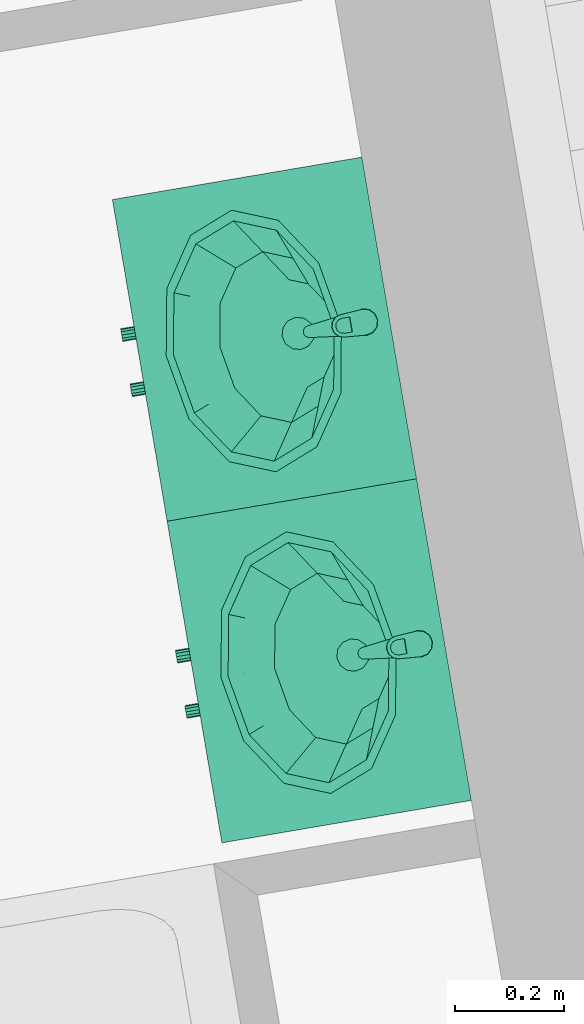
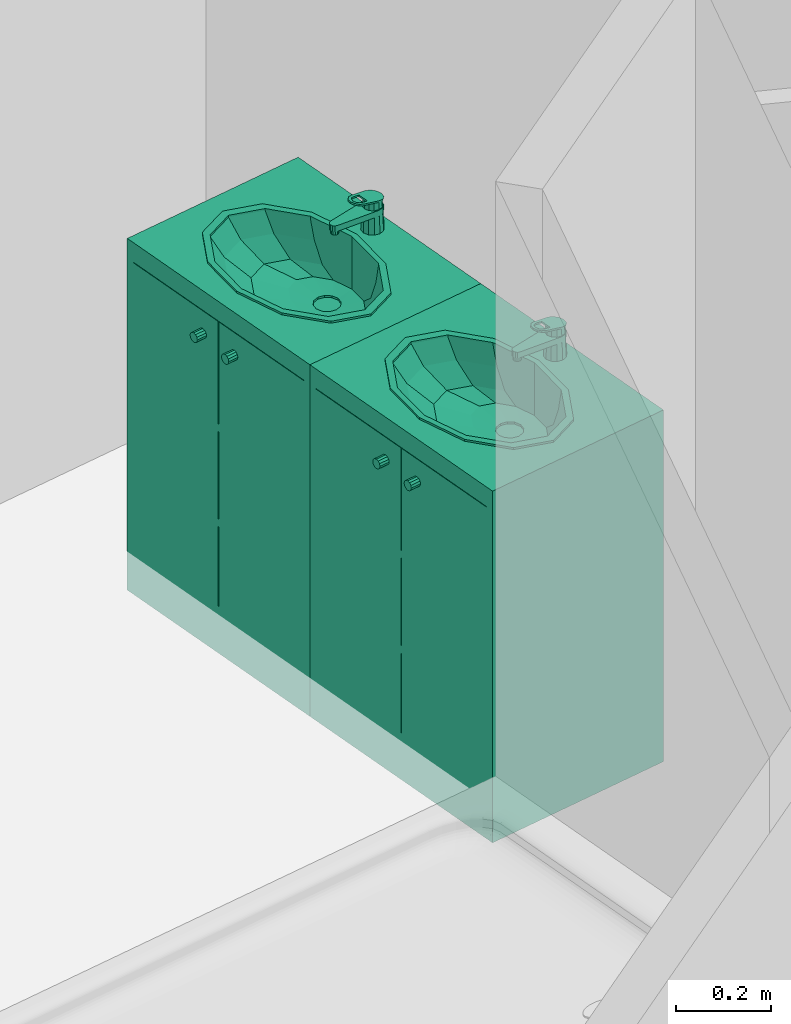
# One storey, part 143 of 195: 2 distribution elements.
"""IFC2X3 building model written with IfcOpenShell, lengths in metres."""

from ifc_helpers import new_model, entity, si_unit, converted_unit, derived_unit, money_unit, direction, frame, origin_with_axes, place, context, subcontext, project, spatial, open_shell, faceted_brep, surface_model, source, transform, mapped, type_object, element, save


model = new_model("IFC2X3")

# Units and contexts
model_context = context("Model", 3, precision=1e-05, world=origin_with_axes(), true_north=direction((0.0, 1.0)))
body_context = subcontext(model_context, "Body", "Model", "MODEL_VIEW")
ifc_project = project(units=[si_unit("LENGTHUNIT", "METRE"), si_unit("AREAUNIT", "SQUARE_METRE"), si_unit("VOLUMEUNIT", "CUBIC_METRE"), converted_unit("PLANEANGLEUNIT", "DEGREE", entity("IfcPlaneAngleMeasure", 0.0174532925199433), si_unit("PLANEANGLEUNIT", "RADIAN"), dimensions=[0, 0, 0, 0, 0, 0, 0]), money_unit("CHF"), converted_unit("TIMEUNIT", "Year", entity("IfcTimeMeasure", 31557600.0), si_unit("TIMEUNIT", "SECOND"), dimensions=[0, 0, 1, 0, 0, 0, 0]), si_unit("MASSUNIT", "GRAM", prefix="KILO"), si_unit("THERMODYNAMICTEMPERATUREUNIT", "DEGREE_CELSIUS"), si_unit("LUMINOUSINTENSITYUNIT", "LUMEN"), si_unit("ENERGYUNIT", "JOULE", prefix="MEGA"), derived_unit("THERMALCONDUCTANCEUNIT", [(si_unit("POWERUNIT", "WATT"), 1), (si_unit("LENGTHUNIT", "METRE"), -1), (si_unit("THERMODYNAMICTEMPERATUREUNIT", "KELVIN"), -1)]), derived_unit("SPECIFICHEATCAPACITYUNIT", [(si_unit("ENERGYUNIT", "JOULE"), 1), (si_unit("MASSUNIT", "GRAM", prefix="KILO"), -1), (si_unit("THERMODYNAMICTEMPERATUREUNIT", "KELVIN"), -1)]), derived_unit("MASSDENSITYUNIT", [(si_unit("MASSUNIT", "GRAM", prefix="KILO"), 1), (si_unit("VOLUMEUNIT", "CUBIC_METRE"), -1)])], contexts=[model_context])

# Site, building, storey
site_placement = place(None, origin_with_axes())
site = spatial("IfcSite", under=ifc_project, at=site_placement, Name="Site", CompositionType="ELEMENT")
building_placement = place(site_placement, origin_with_axes())
building = spatial("IfcBuilding", under=site, at=building_placement, Name="Bâtiment", CompositionType="ELEMENT")
storey_placement = place(building_placement, origin_with_axes())
storey = spatial("IfcBuildingStorey", under=building, at=storey_placement, Name="rdc", CompositionType="ELEMENT", Elevation=0.0)

# Distribution elements
distribution_element_type = type_object("IfcDistributionElementType", Name="Lavabo sur meuble 27")
shared_shape = source(origin_with_axes(), body_context, "Body", "SurfaceModel", [
    faceted_brep([(0.0, 0.0, 0.0), (0.6, 0.0, 0.0), (0.6, 0.0, 0.1), (0.0, 0.0, 0.1), (0.0, 0.4653441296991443, 0.0), (0.6, 0.4653441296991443, 0.0), (0.6, 0.4653441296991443, 0.1), (0.0, 0.4653441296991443, 0.1)], [[[0, 1, 2, 3]], [[0, 4, 5, 1]], [[1, 5, 6, 2]], [[3, 2, 6, 7]], [[4, 0, 3, 7]], [[5, 4, 7, 6]]]),
    faceted_brep([(0.0, 0.0, 0.1), (0.02, 0.0, 0.1), (0.02, 0.0, 0.12), (0.0, 0.0, 0.12), (0.0, 0.4653441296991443, 0.1), (0.02, 0.4653441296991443, 0.1), (0.58, 0.4653441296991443, 0.1), (0.6, 0.4653441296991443, 0.1), (0.6, 0.0, 0.1), (0.58, 0.0, 0.1), (0.58, 0.0, 0.12), (0.6, 0.0, 0.12), (0.6, 0.4653441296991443, 0.12), (0.58, 0.4653441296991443, 0.12), (0.02, 0.4653441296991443, 0.12), (0.0, 0.4653441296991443, 0.12)], [[[0, 1, 2, 3]], [[0, 4, 5, 6, 7, 8, 9, 1]], [[1, 9, 10, 2]], [[3, 2, 10, 11, 12, 13, 14, 15]], [[4, 0, 3, 15]], [[5, 4, 15, 14]], [[6, 5, 14, 13]], [[7, 6, 13, 12]], [[8, 7, 12, 11]], [[9, 8, 11, 10]]]),
    faceted_brep([(0.0, 0.0, 0.12), (0.02, 0.0, 0.12), (0.02, 0.0, 0.85), (0.0, 0.0, 0.85), (0.0, 0.4653441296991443, 0.12), (0.6, 0.4653441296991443, 0.12), (0.6, 0.0, 0.12), (0.58, 0.0, 0.12), (0.58, 0.4453441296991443, 0.12), (0.02, 0.4453441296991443, 0.12), (0.02, 0.4453441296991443, 0.85), (0.58, 0.4453441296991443, 0.85), (0.58, 0.0, 0.85), (0.6, 0.0, 0.85), (0.6, 0.4653441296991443, 0.85), (0.0, 0.4653441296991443, 0.85)], [[[0, 1, 2, 3]], [[0, 4, 5, 6, 7, 8, 9, 1]], [[1, 9, 10, 2]], [[3, 2, 10, 11, 12, 13, 14, 15]], [[4, 0, 3, 15]], [[5, 4, 15, 14]], [[6, 5, 14, 13]], [[7, 6, 13, 12]], [[8, 7, 12, 11]], [[9, 8, 11, 10]]]),
    faceted_brep([(0.58, 0.0, 0.3233333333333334), (0.58, 0.4453441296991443, 0.3233333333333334), (0.58, 0.4453441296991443, 0.3433333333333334), (0.58, 0.0, 0.3433333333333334), (0.02, 0.0, 0.3233333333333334), (0.02, 0.4453441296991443, 0.3233333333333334), (0.02, 0.4453441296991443, 0.3433333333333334), (0.02, 0.0, 0.3433333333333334)], [[[0, 1, 2, 3]], [[0, 4, 5, 1]], [[1, 5, 6, 2]], [[3, 2, 6, 7]], [[4, 0, 3, 7]], [[5, 4, 7, 6]]]),
    faceted_brep([(0.58, 0.0, 0.5666666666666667), (0.58, 0.4453441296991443, 0.5666666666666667), (0.58, 0.4453441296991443, 0.5866666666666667), (0.58, 0.0, 0.5866666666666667), (0.02, 0.0, 0.5666666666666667), (0.02, 0.4453441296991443, 0.5666666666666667), (0.02, 0.4453441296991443, 0.5866666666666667), (0.02, 0.0, 0.5866666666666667)], [[[0, 1, 2, 3]], [[0, 4, 5, 1]], [[1, 5, 6, 2]], [[3, 2, 6, 7]], [[4, 0, 3, 7]], [[5, 4, 7, 6]]]),
    faceted_brep([(0.0, 0.4653441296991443, 0.85), (0.6, 0.4653441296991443, 0.85), (0.6, 0.0, 0.85), (0.0, 0.0, 0.85), (0.4124999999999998, 0.08276825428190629, 0.85), (0.4948557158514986, 0.137672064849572, 0.85), (0.525, 0.2126720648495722, 0.85), (0.4948557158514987, 0.2876720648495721, 0.85), (0.4125, 0.3425758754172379, 0.85), (0.3, 0.3626720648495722, 0.85), (0.1875000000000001, 0.342575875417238, 0.85), (0.1051442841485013, 0.2876720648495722, 0.85), (0.07499999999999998, 0.2126720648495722, 0.85), (0.1051442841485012, 0.1376720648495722, 0.85), (0.1874999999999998, 0.08276825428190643, 0.85), (0.3, 0.06267206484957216, 0.85), (0.0, 0.4653441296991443, 0.9), (0.6, 0.4653441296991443, 0.9), (0.6, 0.0, 0.9), (0.0, 0.0, 0.9), (0.4124999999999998, 0.08276825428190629, 0.9), (0.4948557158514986, 0.137672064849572, 0.9), (0.525, 0.2126720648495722, 0.9), (0.4948557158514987, 0.2876720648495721, 0.9), (0.4125, 0.3425758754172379, 0.9), (0.3, 0.3626720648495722, 0.9), (0.1875000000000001, 0.342575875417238, 0.9), (0.1051442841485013, 0.2876720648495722, 0.9), (0.07499999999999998, 0.2126720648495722, 0.9), (0.1051442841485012, 0.1376720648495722, 0.9), (0.1874999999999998, 0.08276825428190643, 0.9), (0.3, 0.06267206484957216, 0.9)], [[[0, 1, 2, 3], [4, 5, 6, 7, 8, 9, 10, 11, 12, 13, 14, 15]], [[0, 16, 17, 1]], [[1, 17, 18, 2]], [[2, 18, 19, 3]], [[3, 19, 16, 0]], [[20, 21, 5, 4]], [[21, 22, 6, 5]], [[22, 23, 7, 6]], [[23, 24, 8, 7]], [[24, 25, 9, 8]], [[25, 26, 10, 9]], [[26, 27, 11, 10]], [[27, 28, 12, 11]], [[28, 29, 13, 12]], [[29, 30, 14, 13]], [[30, 31, 15, 14]], [[31, 20, 4, 15]], [[18, 17, 16, 19], [24, 23, 22, 21, 20, 31, 30, 29, 28, 27, 26, 25]]]),
    faceted_brep([(0.544, 0.2126720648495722, 0.905), (0.544, 0.2126720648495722, 0.9), (0.511310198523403, 0.2943684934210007, 0.9), (0.511310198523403, 0.2943684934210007, 0.905), (0.5113101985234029, 0.1309756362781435, 0.905), (0.5113101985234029, 0.1309756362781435, 0.9), (0.4219999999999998, 0.07116969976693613, 0.9), (0.3, 0.04927920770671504, 0.9), (0.1779999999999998, 0.07116969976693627, 0.9), (0.08868980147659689, 0.1309756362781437, 0.9), (0.05599999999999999, 0.2126720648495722, 0.9), (0.088689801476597, 0.2943684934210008, 0.9), (0.178, 0.3541744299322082, 0.9), (0.3, 0.3760649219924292, 0.9), (0.422, 0.3541744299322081, 0.9), (0.524, 0.2126720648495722, 0.9), (0.4939896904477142, 0.2876720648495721, 0.9), (0.412, 0.3425758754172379, 0.9), (0.3, 0.3626720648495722, 0.9), (0.1880000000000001, 0.342575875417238, 0.9), (0.1060103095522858, 0.2876720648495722, 0.9), (0.07599999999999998, 0.2126720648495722, 0.9), (0.1060103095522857, 0.1376720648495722, 0.9), (0.1879999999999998, 0.08276825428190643, 0.9), (0.3, 0.06267206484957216, 0.9), (0.4119999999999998, 0.08276825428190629, 0.9), (0.4939896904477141, 0.137672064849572, 0.9), (0.422, 0.3541744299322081, 0.905), (0.3, 0.3760649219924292, 0.905), (0.178, 0.3541744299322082, 0.905), (0.088689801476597, 0.2943684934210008, 0.905), (0.05599999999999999, 0.2126720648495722, 0.905), (0.08868980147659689, 0.1309756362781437, 0.905), (0.1779999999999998, 0.07116969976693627, 0.905), (0.3, 0.04927920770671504, 0.905), (0.4219999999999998, 0.07116969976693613, 0.905), (0.524, 0.2126720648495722, 0.905), (0.4939896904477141, 0.137672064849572, 0.905), (0.4119999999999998, 0.08276825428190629, 0.905), (0.3, 0.06267206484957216, 0.905), (0.1879999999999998, 0.08276825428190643, 0.905), (0.1060103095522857, 0.1376720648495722, 0.905), (0.07599999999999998, 0.2126720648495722, 0.905), (0.1060103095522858, 0.2876720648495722, 0.905), (0.1880000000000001, 0.342575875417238, 0.905), (0.3, 0.3626720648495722, 0.905), (0.412, 0.3425758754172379, 0.905), (0.4939896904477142, 0.2876720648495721, 0.905)], [[[0, 1, 2, 3]], [[4, 5, 1, 0]], [[1, 5, 6, 7, 8, 9, 10, 11, 12, 13, 14, 2], [15, 16, 17, 18, 19, 20, 21, 22, 23, 24, 25, 26]], [[3, 2, 14, 27]], [[0, 3, 27, 28, 29, 30, 31, 32, 33, 34, 35, 4], [36, 37, 38, 39, 40, 41, 42, 43, 44, 45, 46, 47]], [[35, 6, 5, 4]], [[34, 7, 6, 35]], [[33, 8, 7, 34]], [[32, 9, 8, 33]], [[31, 10, 9, 32]], [[30, 11, 10, 31]], [[29, 12, 11, 30]], [[28, 13, 12, 29]], [[27, 14, 13, 28]], [[47, 16, 15, 36]], [[46, 17, 16, 47]], [[45, 18, 17, 46]], [[44, 19, 18, 45]], [[43, 20, 19, 44]], [[42, 21, 20, 43]], [[41, 22, 21, 42]], [[40, 23, 22, 41]], [[39, 24, 23, 40]], [[38, 25, 24, 39]], [[37, 26, 25, 38]], [[36, 15, 26, 37]]]),
    surface_model("IfcShellBasedSurfaceModel", [(0.3, 0.3626720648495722, 0.9), (0.3, 0.3626720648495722, 0.848), (0.4008, 0.3445854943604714, 0.848), (0.412, 0.342575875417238, 0.9), (0.1879999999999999, 0.3425758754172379, 0.9), (0.1991999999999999, 0.3445854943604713, 0.848), (0.4745907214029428, 0.2951720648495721, 0.848), (0.4939896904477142, 0.2876720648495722, 0.9), (0.1060103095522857, 0.2876720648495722, 0.9), (0.1254092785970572, 0.2951720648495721, 0.848), (0.5016, 0.2276720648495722, 0.848), (0.524, 0.2126720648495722, 0.9), (0.07599999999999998, 0.2126720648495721, 0.9), (0.09839999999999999, 0.2276720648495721, 0.848), (0.4745907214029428, 0.1601720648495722, 0.848), (0.4939896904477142, 0.1376720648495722, 0.9), (0.1060103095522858, 0.1376720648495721, 0.9), (0.1254092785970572, 0.1601720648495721, 0.848), (0.4008, 0.1107586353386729, 0.848), (0.412, 0.08276825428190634, 0.9), (0.1879999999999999, 0.08276825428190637, 0.9), (0.1992, 0.110758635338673, 0.848), (0.3, 0.09267206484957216, 0.848), (0.3, 0.06267206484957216, 0.9)], [open_shell([[[0, 1, 2, 3]], [[4, 5, 1, 0]], [[3, 2, 6, 7]], [[8, 9, 5, 4]], [[7, 6, 10, 11]], [[12, 13, 9, 8]], [[11, 10, 14, 15]], [[16, 17, 13, 12]], [[15, 14, 18, 19]], [[20, 21, 17, 16]], [[19, 18, 22, 23]], [[23, 22, 21, 20]]])]),
    surface_model("IfcShellBasedSurfaceModel", [(0.3, 0.3626720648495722, 0.848), (0.3, 0.3626720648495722, 0.7959999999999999), (0.379632, 0.3483836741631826, 0.7959999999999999), (0.4008, 0.3445854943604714, 0.848), (0.1991999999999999, 0.3445854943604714, 0.848), (0.2203679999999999, 0.3483836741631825, 0.7959999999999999), (0.4379266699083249, 0.3093470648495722, 0.7959999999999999), (0.4745907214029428, 0.2951720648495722, 0.848), (0.1254092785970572, 0.2951720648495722, 0.848), (0.1620733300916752, 0.3093470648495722, 0.7959999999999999), (0.459264, 0.2560220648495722, 0.7959999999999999), (0.5016, 0.2276720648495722, 0.848), (0.09839999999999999, 0.2276720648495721, 0.848), (0.140736, 0.2560220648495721, 0.7959999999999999), (0.4379266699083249, 0.2026970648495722, 0.7959999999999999), (0.4745907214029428, 0.1601720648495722, 0.848), (0.1254092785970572, 0.1601720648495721, 0.848), (0.1620733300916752, 0.2026970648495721, 0.7959999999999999), (0.379632, 0.1636604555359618, 0.7959999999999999), (0.4008, 0.1107586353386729, 0.848), (0.1992, 0.110758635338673, 0.848), (0.220368, 0.1636604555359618, 0.7959999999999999), (0.3, 0.1493720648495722, 0.7959999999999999), (0.3, 0.09267206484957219, 0.848)], [open_shell([[[0, 1, 2, 3]], [[4, 5, 1, 0]], [[3, 2, 6, 7]], [[8, 9, 5, 4]], [[7, 6, 10, 11]], [[12, 13, 9, 8]], [[11, 10, 14, 15]], [[16, 17, 13, 12]], [[15, 14, 18, 19]], [[20, 21, 17, 16]], [[19, 18, 22, 23]], [[23, 22, 21, 20]]])]),
    surface_model("IfcShellBasedSurfaceModel", [(0.3, 0.3626720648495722, 0.7959999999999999), (0.3, 0.3626720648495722, 0.7699999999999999), (0.35016816, 0.3536703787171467, 0.7699999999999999), (0.379632, 0.3483836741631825, 0.7959999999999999), (0.2203679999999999, 0.3483836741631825, 0.7959999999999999), (0.2498318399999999, 0.3536703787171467, 0.7699999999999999), (0.3868938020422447, 0.3290773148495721, 0.7699999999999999), (0.4379266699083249, 0.3093470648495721, 0.7959999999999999), (0.1620733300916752, 0.3093470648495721, 0.7959999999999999), (0.2131061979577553, 0.3290773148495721, 0.7699999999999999), (0.40033632, 0.2954825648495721, 0.7699999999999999), (0.459264, 0.2560220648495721, 0.7959999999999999), (0.140736, 0.2560220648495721, 0.7959999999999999), (0.19966368, 0.2954825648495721, 0.7699999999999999), (0.3868938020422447, 0.2618878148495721, 0.7699999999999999), (0.4379266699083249, 0.2026970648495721, 0.7959999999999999), (0.1620733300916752, 0.2026970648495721, 0.7959999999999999), (0.2131061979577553, 0.2618878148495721, 0.7699999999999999), (0.35016816, 0.2372947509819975, 0.7699999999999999), (0.379632, 0.1636604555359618, 0.7959999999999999), (0.220368, 0.1636604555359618, 0.7959999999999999), (0.24983184, 0.2372947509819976, 0.7699999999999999), (0.3, 0.2282930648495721, 0.7699999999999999), (0.3, 0.1493720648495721, 0.7959999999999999)], [open_shell([[[0, 1, 2, 3]], [[4, 5, 1, 0]], [[3, 2, 6, 7]], [[8, 9, 5, 4]], [[7, 6, 10, 11]], [[12, 13, 9, 8]], [[11, 10, 14, 15]], [[16, 17, 13, 12]], [[15, 14, 18, 19]], [[20, 21, 17, 16]], [[19, 18, 22, 23]], [[23, 22, 21, 20]]])]),
    surface_model("IfcShellBasedSurfaceModel", [(0.3, 0.3626720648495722, 0.7699999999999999), (0.315, 0.3214633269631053, 0.7629999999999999), (0.35016816, 0.3536703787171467, 0.7699999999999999), (0.3, 0.3254825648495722, 0.7629999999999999), (0.3259807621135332, 0.3104825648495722, 0.7629999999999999), (0.2498318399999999, 0.3536703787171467, 0.7699999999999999), (0.3868938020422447, 0.3290773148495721, 0.7699999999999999), (0.285, 0.3214633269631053, 0.7629999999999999), (0.33, 0.2954825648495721, 0.7629999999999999), (0.2131061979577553, 0.3290773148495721, 0.7699999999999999), (0.40033632, 0.2954825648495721, 0.7699999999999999), (0.2740192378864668, 0.3104825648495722, 0.7629999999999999), (0.3259807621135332, 0.2804825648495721, 0.7629999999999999), (0.19966368, 0.2954825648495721, 0.7699999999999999), (0.3868938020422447, 0.2618878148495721, 0.7699999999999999), (0.27, 0.2954825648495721, 0.7629999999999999), (0.315, 0.269501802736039, 0.7629999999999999), (0.2131061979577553, 0.2618878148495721, 0.7699999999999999), (0.35016816, 0.2372947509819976, 0.7699999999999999), (0.2740192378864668, 0.2804825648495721, 0.7629999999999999), (0.3, 0.2654825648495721, 0.7629999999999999), (0.24983184, 0.2372947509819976, 0.7699999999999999), (0.3, 0.2282930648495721, 0.7699999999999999), (0.285, 0.269501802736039, 0.7629999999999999)], [open_shell([[[0, 1, 2]], [[0, 3, 1]], [[2, 1, 4]], [[5, 3, 0]], [[2, 4, 6]], [[5, 7, 3]], [[6, 4, 8]], [[9, 7, 5]], [[6, 8, 10]], [[9, 11, 7]], [[10, 8, 12]], [[13, 11, 9]], [[10, 12, 14]], [[13, 15, 11]], [[14, 12, 16]], [[17, 15, 13]], [[14, 16, 18]], [[17, 19, 15]], [[18, 16, 20]], [[21, 19, 17]], [[18, 20, 22]], [[21, 23, 19]], [[22, 20, 23]], [[22, 23, 21]]])]),
    surface_model("IfcShellBasedSurfaceModel", [(0.33, 0.2954825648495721, 0.763), (0.33, 0.2954825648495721, 0.758), (0.3259807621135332, 0.3104825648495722, 0.758), (0.3259807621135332, 0.3104825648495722, 0.763), (0.3259807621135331, 0.2804825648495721, 0.763), (0.3259807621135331, 0.2804825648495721, 0.758), (0.3149999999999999, 0.269501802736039, 0.758), (0.3, 0.2654825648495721, 0.758), (0.285, 0.269501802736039, 0.758), (0.2740192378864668, 0.2804825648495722, 0.758), (0.27, 0.2954825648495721, 0.758), (0.2740192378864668, 0.3104825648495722, 0.758), (0.285, 0.3214633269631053, 0.758), (0.3, 0.3254825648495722, 0.758), (0.315, 0.3214633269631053, 0.758), (0.315, 0.3214633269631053, 0.763), (0.3149999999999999, 0.269501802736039, 0.763), (0.3, 0.2654825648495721, 0.763), (0.285, 0.269501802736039, 0.763), (0.2740192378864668, 0.2804825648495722, 0.763), (0.27, 0.2954825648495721, 0.763), (0.2740192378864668, 0.3104825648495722, 0.763), (0.285, 0.3214633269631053, 0.763), (0.3, 0.3254825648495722, 0.763)], [open_shell([[[0, 1, 2, 3]], [[4, 5, 1, 0]], [[1, 5, 6, 7, 8, 9, 10, 11, 12, 13, 14, 2]], [[3, 2, 14, 15]], [[16, 6, 5, 4]], [[17, 7, 6, 16]], [[18, 8, 7, 17]], [[19, 9, 8, 18]], [[20, 10, 9, 19]], [[21, 11, 10, 20]], [[22, 12, 11, 21]], [[23, 13, 12, 22]], [[15, 14, 13, 23]]])]),
    faceted_brep([(0.3125, 0.4406587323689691, 0.9), (0.3, 0.4440080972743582, 0.9), (0.3, 0.4402100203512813, 0.9759615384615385), (0.310587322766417, 0.4373458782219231, 0.976507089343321), (0.3216506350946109, 0.4315080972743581, 0.9), (0.325, 0.4190080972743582, 0.9), (0.3216506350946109, 0.4065080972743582, 0.9), (0.3125, 0.3973574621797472, 0.9), (0.3, 0.3940080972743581, 0.9), (0.2875, 0.3973574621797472, 0.9), (0.278349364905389, 0.4065080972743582, 0.9), (0.275, 0.4190080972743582, 0.9), (0.278349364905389, 0.4315080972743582, 0.9), (0.2875, 0.4406587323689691, 0.9), (0.289412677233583, 0.4373458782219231, 0.976507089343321), (0.2817264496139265, 0.4295583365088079, 0.9779904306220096), (0.279, 0.4190080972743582, 0.98), (0.2818996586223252, 0.4085578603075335, 0.9819905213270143), (0.2895858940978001, 0.400970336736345, 0.9834357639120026), (0.3, 0.3982062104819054, 0.9839622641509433), (0.3104141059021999, 0.400970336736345, 0.9834357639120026), (0.3181003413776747, 0.4085578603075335, 0.9819905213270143), (0.321, 0.4190080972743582, 0.98), (0.3182735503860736, 0.4295583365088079, 0.9779904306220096)], [[[0, 1, 2, 3]], [[0, 4, 5, 6, 7, 8, 9, 10, 11, 12, 13, 1]], [[1, 13, 14, 2]], [[3, 2, 14, 15, 16, 17, 18, 19, 20, 21, 22, 23]], [[4, 0, 3, 23]], [[5, 4, 23, 22]], [[6, 5, 22, 21]], [[7, 6, 21, 20]], [[8, 7, 20, 19]], [[9, 8, 19, 18]], [[10, 9, 18, 17]], [[11, 10, 17, 16]], [[12, 11, 16, 15]], [[13, 12, 15, 14]]]),
    faceted_brep([(0.309, 0.3160080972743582, 0.935), (0.3077942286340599, 0.3205080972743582, 0.935), (0.3077942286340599, 0.3205080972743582, 0.9450000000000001), (0.309, 0.3160080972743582, 0.9450000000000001), (0.3077942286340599, 0.3115080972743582, 0.935), (0.3045, 0.3082138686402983, 0.935), (0.3, 0.3070080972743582, 0.935), (0.2955, 0.3082138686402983, 0.935), (0.2922057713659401, 0.3115080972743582, 0.935), (0.291, 0.3160080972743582, 0.935), (0.2922057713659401, 0.3205080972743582, 0.935), (0.2955, 0.3238023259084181, 0.935), (0.3, 0.3250080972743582, 0.935), (0.3045, 0.3238023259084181, 0.935), (0.3045, 0.3238023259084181, 0.9450000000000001), (0.3, 0.3250080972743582, 0.9450000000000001), (0.2955, 0.3238023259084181, 0.9450000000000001), (0.2922057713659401, 0.3205080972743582, 0.9450000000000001), (0.291, 0.3160080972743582, 0.9450000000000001), (0.2922057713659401, 0.3115080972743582, 0.9450000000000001), (0.2955, 0.3082138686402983, 0.9450000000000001), (0.3, 0.3070080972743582, 0.9450000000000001), (0.3045, 0.3082138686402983, 0.9450000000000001), (0.3077942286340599, 0.3115080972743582, 0.9450000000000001)], [[[0, 1, 2, 3]], [[0, 4, 5, 6, 7, 8, 9, 10, 11, 12, 13, 1]], [[1, 13, 14, 2]], [[3, 2, 14, 15, 16, 17, 18, 19, 20, 21, 22, 23]], [[4, 0, 3, 23]], [[5, 4, 23, 22]], [[6, 5, 22, 21]], [[7, 6, 21, 20]], [[8, 7, 20, 19]], [[9, 8, 19, 18]], [[10, 9, 18, 17]], [[11, 10, 17, 16]], [[12, 11, 16, 15]], [[13, 12, 15, 14]]]),
    faceted_brep([(0.2871282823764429, 0.439264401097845, 0.9600000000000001), (0.2782721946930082, 0.4292013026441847, 0.9600000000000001), (0.2761946, 0.4159581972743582, 0.9600000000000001), (0.2890880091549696, 0.3146197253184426, 0.9600000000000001), (0.2909711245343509, 0.3097249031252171, 0.9600000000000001), (0.2949066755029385, 0.3062583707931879, 0.9600000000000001), (0.300000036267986, 0.305008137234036, 0.9600000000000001), (0.3050933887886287, 0.3062584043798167, 0.9600000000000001), (0.309028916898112, 0.3097249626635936, 0.9600000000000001), (0.310912, 0.3146197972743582, 0.9600000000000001), (0.3238053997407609, 0.4159581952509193, 0.9600000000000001), (0.3217278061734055, 0.4292013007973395, 0.9600000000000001), (0.3128717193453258, 0.4392644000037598, 0.9600000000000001), (0.300000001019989, 0.44300807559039, 0.9600000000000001), (0.311, 0.4380606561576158, 0.9600000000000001), (0.3190525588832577, 0.4300080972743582, 0.9600000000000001), (0.322, 0.4190080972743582, 0.9600000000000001), (0.3190525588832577, 0.4080080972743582, 0.9600000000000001), (0.3109999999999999, 0.3999555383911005, 0.9600000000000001), (0.3, 0.3970080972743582, 0.9600000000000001), (0.289, 0.3999555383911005, 0.9600000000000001), (0.2809474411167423, 0.4080080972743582, 0.9600000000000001), (0.278, 0.4190080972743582, 0.9600000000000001), (0.2809474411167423, 0.4300080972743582, 0.9600000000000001), (0.289, 0.4380606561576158, 0.9600000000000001), (0.3, 0.4410080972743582, 0.9600000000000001), (0.2782721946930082, 0.4292013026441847, 0.9450000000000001), (0.2871282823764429, 0.439264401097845, 0.9450000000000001), (0.2761946, 0.4159581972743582, 0.9450000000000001), (0.2890880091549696, 0.3146197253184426, 0.9450000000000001), (0.2909711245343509, 0.3097249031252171, 0.9450000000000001), (0.2949066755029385, 0.3062583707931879, 0.9450000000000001), (0.300000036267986, 0.305008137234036, 0.9450000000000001), (0.3050933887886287, 0.3062584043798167, 0.9450000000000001), (0.309028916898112, 0.3097249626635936, 0.9450000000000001), (0.310912, 0.3146197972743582, 0.9450000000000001), (0.3238053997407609, 0.4159581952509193, 0.9450000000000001), (0.3217278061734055, 0.4292013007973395, 0.9450000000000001), (0.3128717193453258, 0.4392644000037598, 0.9450000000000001), (0.300000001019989, 0.44300807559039, 0.9450000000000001), (0.311375, 0.4387101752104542, 0.9450000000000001), (0.319702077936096, 0.4303830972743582, 0.9450000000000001), (0.32275, 0.4190080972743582, 0.9450000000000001), (0.319702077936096, 0.4076330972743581, 0.9450000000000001), (0.311375, 0.3993060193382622, 0.9450000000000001), (0.3, 0.3962580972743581, 0.9450000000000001), (0.288625, 0.3993060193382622, 0.9450000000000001), (0.280297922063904, 0.4076330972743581, 0.9450000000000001), (0.2772499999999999, 0.4190080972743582, 0.9450000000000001), (0.280297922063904, 0.4303830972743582, 0.9450000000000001), (0.288625, 0.4387101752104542, 0.9450000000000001), (0.3, 0.4417580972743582, 0.9450000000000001)], [[[0, 1, 2, 3, 4, 5, 6, 7, 8, 9, 10, 11, 12, 13], [14, 15, 16, 17, 18, 19, 20, 21, 22, 23, 24, 25]], [[26, 1, 0, 27]], [[28, 2, 1, 26]], [[29, 3, 2, 28]], [[30, 4, 3, 29]], [[31, 5, 4, 30]], [[32, 6, 5, 31]], [[33, 7, 6, 32]], [[34, 8, 7, 33]], [[35, 9, 8, 34]], [[36, 10, 9, 35]], [[37, 11, 10, 36]], [[38, 12, 11, 37]], [[39, 13, 12, 38]], [[27, 0, 13, 39]], [[40, 41, 15, 14]], [[41, 42, 16, 15]], [[42, 43, 17, 16]], [[43, 44, 18, 17]], [[44, 45, 19, 18]], [[20, 19, 45, 46]], [[21, 20, 46, 47]], [[22, 21, 47, 48]], [[23, 22, 48, 49]], [[24, 23, 49, 50]], [[50, 51, 25, 24]], [[51, 40, 14, 25]], [[32, 31, 30, 29, 28, 26, 27, 39, 38, 37, 36, 35, 34, 33], [44, 43, 42, 41, 40, 51, 50, 49, 48, 47, 46, 45]]]),
    faceted_brep([(0.323893, 0.4173155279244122, 0.9803223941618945), (0.3212964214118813, 0.4297828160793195, 0.9779476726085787), (0.3212964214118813, 0.4305312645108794, 0.9818770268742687), (0.323893, 0.4180639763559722, 0.9842517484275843), (0.3209459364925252, 0.377171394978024, 0.9879688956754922), (0.317663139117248, 0.3674937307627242, 0.9898122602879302), (0.3100614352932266, 0.3605443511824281, 0.9911359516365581), (0.2999995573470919, 0.3580224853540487, 0.9916163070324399), (0.289937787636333, 0.3605447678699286, 0.9911358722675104), (0.2823363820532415, 0.3674944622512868, 0.9898121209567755), (0.279054, 0.3771722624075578, 0.9879687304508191), (0.2761069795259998, 0.4173158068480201, 0.9803223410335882), (0.2787037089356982, 0.4297830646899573, 0.9779476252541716), (0.2875283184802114, 0.4390992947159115, 0.976173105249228), (0.3000001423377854, 0.4425400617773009, 0.9755177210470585), (0.3124719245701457, 0.4390991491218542, 0.9761731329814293), (0.314, 0.3934672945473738, 0.9848649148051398), (0.286, 0.3934672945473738, 0.9848649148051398), (0.286, 0.37865166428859, 0.9876869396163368), (0.2878756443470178, 0.3717752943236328, 0.9889967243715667), (0.293, 0.3667414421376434, 0.9899555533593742), (0.3, 0.3648989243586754, 0.9903065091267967), (0.307, 0.3667414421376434, 0.9899555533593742), (0.3121243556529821, 0.3717752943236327, 0.9889967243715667), (0.314, 0.37865166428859, 0.9876869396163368), (0.3124719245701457, 0.4398475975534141, 0.9801024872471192), (0.3000001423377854, 0.4432885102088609, 0.9794470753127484), (0.2875283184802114, 0.4398477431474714, 0.9801024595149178), (0.2787037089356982, 0.4305315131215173, 0.9818769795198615), (0.2761069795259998, 0.4180642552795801, 0.9842516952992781), (0.279054, 0.3779207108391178, 0.991898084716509), (0.2823363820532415, 0.3682429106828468, 0.9937414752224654), (0.289937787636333, 0.3612932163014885, 0.9950652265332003), (0.2999995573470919, 0.3587709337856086, 0.9955456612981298), (0.3100614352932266, 0.3612927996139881, 0.995065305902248), (0.317663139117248, 0.3682421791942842, 0.9937416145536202), (0.3209459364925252, 0.377919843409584, 0.9918982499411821), (0.314, 0.3942157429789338, 0.9887942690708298), (0.314, 0.3794001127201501, 0.9916162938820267), (0.3121243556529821, 0.3725237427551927, 0.9929260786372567), (0.307, 0.3674898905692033, 0.9938849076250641), (0.3, 0.3656473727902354, 0.9942358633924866), (0.293, 0.3674898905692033, 0.9938849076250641), (0.2878756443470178, 0.3725237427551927, 0.9929260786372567), (0.286, 0.3794001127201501, 0.9916162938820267), (0.286, 0.3942157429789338, 0.9887942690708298)], [[[0, 1, 2, 3]], [[0, 4, 5, 6, 7, 8, 9, 10, 11, 12, 13, 14, 15, 1], [16, 17, 18, 19, 20, 21, 22, 23, 24]], [[1, 15, 25, 2]], [[3, 2, 25, 26, 27, 28, 29, 30, 31, 32, 33, 34, 35, 36], [37, 38, 39, 40, 41, 42, 43, 44, 45]], [[4, 0, 3, 36]], [[5, 4, 36, 35]], [[6, 5, 35, 34]], [[7, 6, 34, 33]], [[8, 7, 33, 32]], [[9, 8, 32, 31]], [[10, 9, 31, 30]], [[11, 10, 30, 29]], [[12, 11, 29, 28]], [[13, 12, 28, 27]], [[14, 13, 27, 26]], [[15, 14, 26, 25]], [[17, 16, 37, 45]], [[18, 17, 45, 44]], [[19, 18, 44, 43]], [[20, 19, 43, 42]], [[21, 20, 42, 41]], [[22, 21, 41, 40]], [[23, 22, 40, 39]], [[24, 23, 39, 38]], [[16, 24, 38, 37]]]),
    surface_model("IfcShellBasedSurfaceModel", [(0.001500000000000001, 0.0, 0.1015), (0.001500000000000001, 0.0, 0.8485), (0.2985, 0.0, 0.8485), (0.2985, 0.0, 0.1015)], [open_shell([[[0, 1, 2, 3]]])]),
    faceted_brep([(0.2588923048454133, 0.0, 0.7855), (0.2545, 0.0, 0.7811076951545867), (0.2485, 0.0, 0.7795), (0.2425, 0.0, 0.7811076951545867), (0.2381076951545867, 0.0, 0.7855), (0.2365, 0.0, 0.7915), (0.2381076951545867, 0.0, 0.7975), (0.2425, 0.0, 0.8018923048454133), (0.2485, 0.0, 0.8035), (0.2545, 0.0, 0.8018923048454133), (0.2588923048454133, 0.0, 0.7975), (0.2605, 0.0, 0.7915), (0.2588923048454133, -0.025, 0.7855), (0.2545, -0.025, 0.7811076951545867), (0.2485, -0.025, 0.7795), (0.2425, -0.025, 0.7811076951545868), (0.2381076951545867, -0.025, 0.7855), (0.2365, -0.025, 0.7915), (0.2381076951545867, -0.025, 0.7975), (0.2425, -0.025, 0.8018923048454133), (0.2485, -0.025, 0.8035), (0.2545, -0.025, 0.8018923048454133), (0.2588923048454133, -0.025, 0.7975), (0.2605, -0.025, 0.7915)], [[[0, 1, 2, 3, 4, 5, 6, 7, 8, 9, 10, 11]], [[1, 0, 12, 13]], [[2, 1, 13, 14]], [[3, 2, 14, 15]], [[4, 3, 15, 16]], [[5, 4, 16, 17]], [[6, 5, 17, 18]], [[7, 6, 18, 19]], [[8, 7, 19, 20]], [[9, 8, 20, 21]], [[10, 9, 21, 22]], [[11, 10, 22, 23]], [[0, 11, 23, 12]], [[12, 23, 22, 21, 20, 19, 18, 17, 16, 15, 14, 13]]]),
    surface_model("IfcShellBasedSurfaceModel", [(0.5985, 0.0, 0.1015), (0.3015000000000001, 0.0, 0.1015), (0.3015000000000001, 0.0, 0.8485), (0.5985, 0.0, 0.8485)], [open_shell([[[0, 1, 2, 3]]])]),
    faceted_brep([(0.3411076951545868, 0.0, 0.7855), (0.3395, 0.0, 0.7915), (0.3411076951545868, 0.0, 0.7975), (0.3455, 0.0, 0.8018923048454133), (0.3515, 0.0, 0.8035), (0.3575, 0.0, 0.8018923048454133), (0.3618923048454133, 0.0, 0.7975), (0.3635, 0.0, 0.7915), (0.3618923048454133, 0.0, 0.7855), (0.3575, 0.0, 0.7811076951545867), (0.3515, 0.0, 0.7795), (0.3455, 0.0, 0.7811076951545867), (0.3411076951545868, -0.025, 0.7855), (0.3395, -0.025, 0.7915), (0.3411076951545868, -0.025, 0.7975), (0.3455, -0.025, 0.8018923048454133), (0.3515, -0.025, 0.8035), (0.3575, -0.025, 0.8018923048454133), (0.3618923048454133, -0.025, 0.7975), (0.3635, -0.025, 0.7915), (0.3618923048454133, -0.025, 0.7855), (0.3575, -0.025, 0.7811076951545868), (0.3515, -0.025, 0.7795), (0.3455, -0.025, 0.7811076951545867)], [[[0, 1, 2, 3, 4, 5, 6, 7, 8, 9, 10, 11]], [[0, 12, 13, 1]], [[1, 13, 14, 2]], [[2, 14, 15, 3]], [[3, 15, 16, 4]], [[4, 16, 17, 5]], [[5, 17, 18, 6]], [[6, 18, 19, 7]], [[7, 19, 20, 8]], [[8, 20, 21, 9]], [[9, 21, 22, 10]], [[10, 22, 23, 11]], [[11, 23, 12, 0]], [[12, 23, 22, 21, 20, 19, 18, 17, 16, 15, 14, 13]]]),
])
for number, where, z_axis, x_axis, name in (
    (1, (9587.124333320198, -1025.213902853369, 57.59999999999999), (0.0, 0.0, 1.0), (0.1677527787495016, -0.9858290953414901, 0.0), "Obj.-004"),
    (2, (9587.023681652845, -1024.622405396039, 57.59999999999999), (0.0, 0.0, 1.0), (0.1677527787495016, -0.9858290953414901, 0.0), "Obj.-004"),
):
    element("IfcDistributionElement", number, at=place(storey_placement, frame(where, z_axis=z_axis, x_axis=x_axis)), inside=storey, type_object=distribution_element_type, Name=name, context=body_context, shape_type="MappedRepresentation", body=[
        mapped(shared_shape, transform((0.0, 0.0, 0.0))),
    ])

save(model, "model.ifc")
